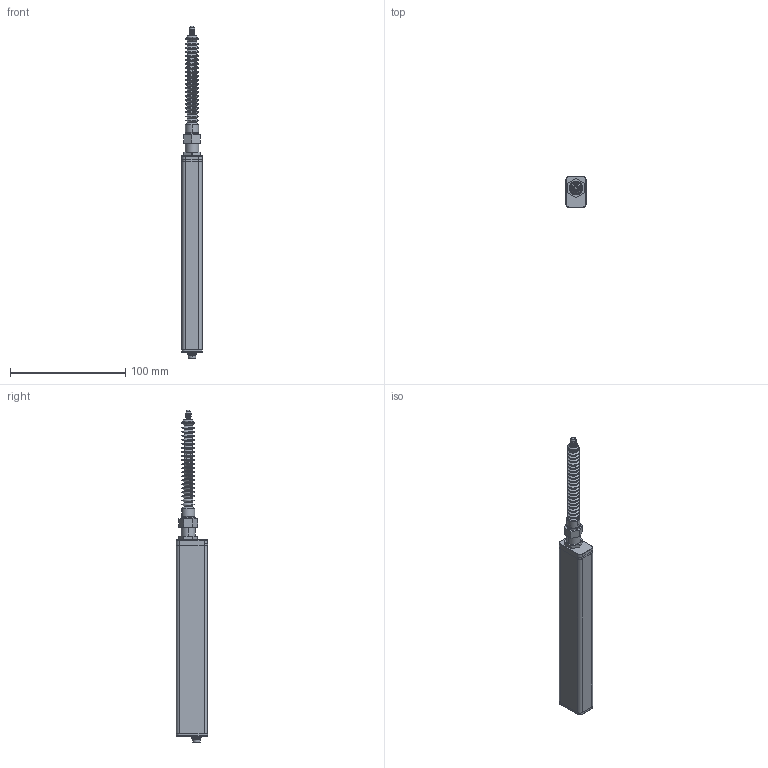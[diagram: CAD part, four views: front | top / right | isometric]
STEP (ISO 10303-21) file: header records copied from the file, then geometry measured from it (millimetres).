
FILE_DESCRIPTION (( 'STEP AP203' ), '1' );
FILE_NAME ('SA-S550_step_01.STEP', '2020-01-24T09:44:14', ( '' ), ( '' ), 'SwSTEP 2.0', 'SolidWorks 2016', '' );
FILE_SCHEMA (( 'CONFIG_CONTROL_DESIGN' ));
Length unit declared in the file: millimetre
Products named in the file (6): スピンドル50_hp; ナット50_hp; 本体50_hp; 端子; SA-S550_step_01; ゴムベローズ50_hp
Assembly tree (5 placements, depth 2):
  SA-S550_step_01
    本体50_hp
    スピンドル50_hp
    端子
    ゴムベローズ50_hp
    ナット50_hp
Bounding box: 17.5 x 27.1 x 288.03 mm (x, y, z)
Volume: 89891.4 mm3; surface area: 24705.6 mm2
Topology: 5 solids, 5 shells, 453 faces, 976 edges, 544 vertices
Faces by surface type: torus 178, cone 113, cylinder 85, plane 71, bspline 5, sphere 1
Entity records: 13301 total; most frequent: CARTESIAN_POINT 2581, DIRECTION 2460, ORIENTED_EDGE 1928, AXIS2_PLACEMENT_3D 1074, EDGE_CURVE 964, CIRCLE 618, VERTEX_POINT 543, EDGE_LOOP 481
